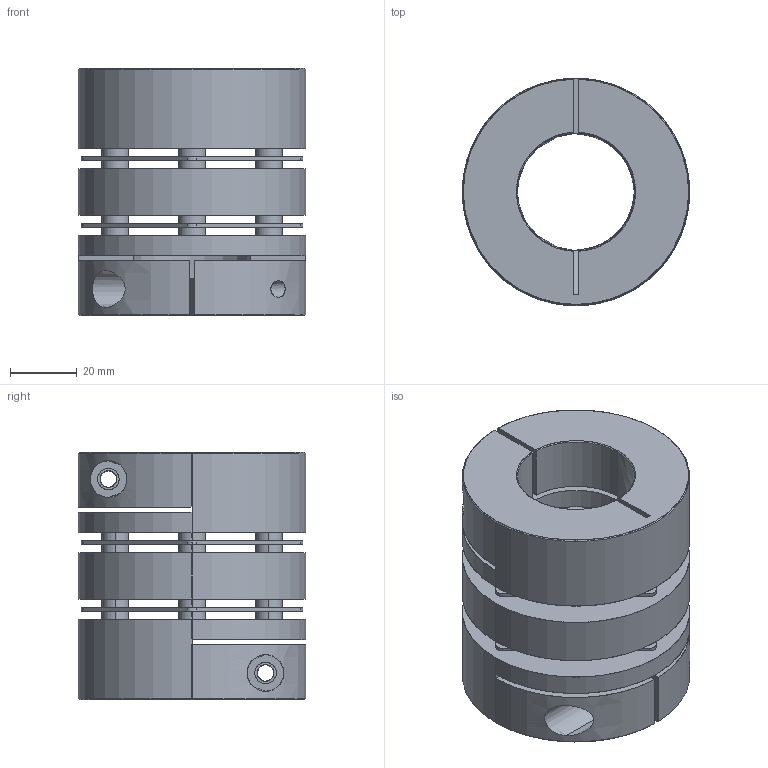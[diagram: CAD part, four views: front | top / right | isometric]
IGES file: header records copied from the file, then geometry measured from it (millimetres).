
Start section: SolidWorks IGES file using analytic representation for surfaces
Bounding box: 68 x 68 x 74 mm (x, y, z)
Surface area: 49309 mm2 (no closed solid volume)
Topology: 0 solids, 0 shells, 130 faces, 3453 edges, 3453 vertices
Faces by surface type: revolution 90, bspline 40
